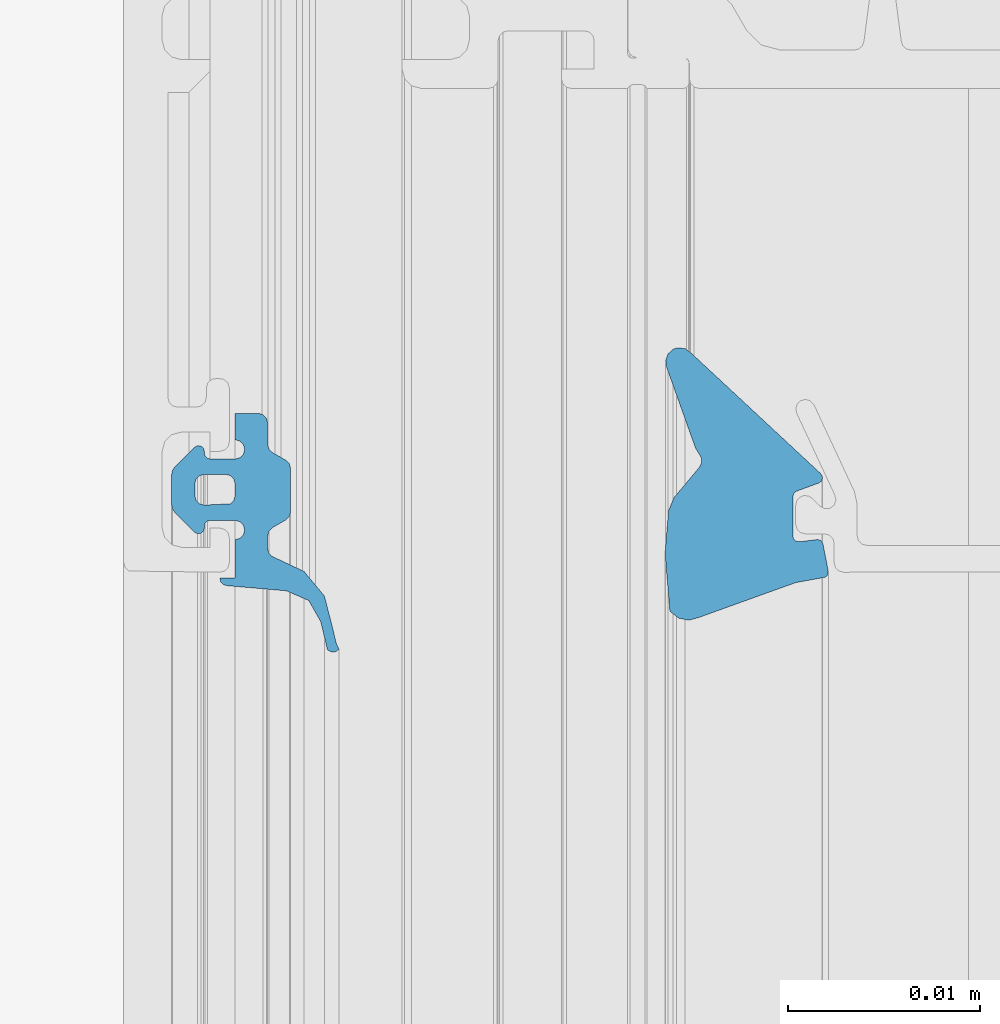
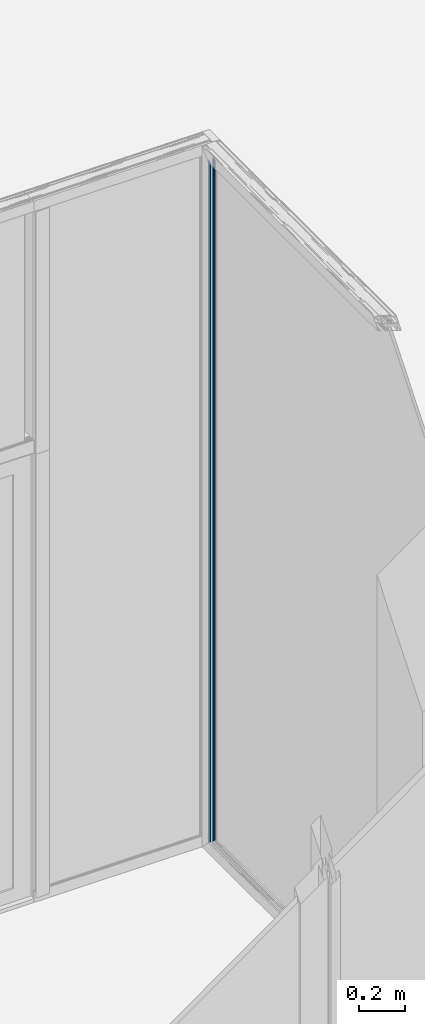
# One storey, part 30 of 69: 1 building element part, 2 elements without a shape of their own.
"""IFC2X3 building model written with IfcOpenShell, lengths in millimetres."""

from ifc_helpers import new_model, entity, si_unit, converted_unit, derived_unit, money_unit, direction, frame, origin_with_axes, place, context, subcontext, project, spatial, faceted_brep, material, type_object, element, aggregate, save


model = new_model("IFC2X3")

# Units and contexts
model_context = context("Model", 3, precision=0.01, world=origin_with_axes(), true_north=direction((0.0, 1.0)))
body_context = subcontext(model_context, "Body", "Model", "MODEL_VIEW")
ifc_project = project(units=[si_unit("LENGTHUNIT", "METRE", prefix="MILLI"), si_unit("AREAUNIT", "SQUARE_METRE"), si_unit("VOLUMEUNIT", "CUBIC_METRE"), converted_unit("PLANEANGLEUNIT", "DEGREE", entity("IfcPlaneAngleMeasure", 0.0174532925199), si_unit("PLANEANGLEUNIT", "RADIAN"), dimensions=[0, 0, 0, 0, 0, 0, 0]), si_unit("SOLIDANGLEUNIT", "STERADIAN"), money_unit("EUR"), converted_unit("TIMEUNIT", "Year", entity("IfcTimeMeasure", 31556926.0), si_unit("TIMEUNIT", "SECOND"), dimensions=[0, 0, 1, 0, 0, 0, 0]), si_unit("MASSUNIT", "GRAM", prefix="KILO"), si_unit("THERMODYNAMICTEMPERATUREUNIT", "DEGREE_CELSIUS"), si_unit("LUMINOUSINTENSITYUNIT", "LUMEN"), si_unit("ENERGYUNIT", "JOULE", prefix="MEGA"), derived_unit("THERMALCONDUCTANCEUNIT", [(si_unit("POWERUNIT", "WATT"), 1), (si_unit("LENGTHUNIT", "METRE"), -1), (si_unit("THERMODYNAMICTEMPERATUREUNIT", "KELVIN"), -1)]), derived_unit("SPECIFICHEATCAPACITYUNIT", [(si_unit("ENERGYUNIT", "JOULE"), 1), (si_unit("MASSUNIT", "GRAM", prefix="KILO"), -1), (si_unit("THERMODYNAMICTEMPERATUREUNIT", "KELVIN"), -1)]), derived_unit("MASSDENSITYUNIT", [(si_unit("MASSUNIT", "GRAM", prefix="KILO"), 1), (si_unit("VOLUMEUNIT", "CUBIC_METRE"), -1)])], contexts=[model_context])

# Site, building, storey
site_placement = place(None, origin_with_axes())
site = spatial("IfcSite", under=ifc_project, at=site_placement, Name="Puškini 31, Narva", CompositionType="ELEMENT")
building_placement = place(site_placement, origin_with_axes())
building = spatial("IfcBuilding", under=site, at=building_placement, Name="Narva Riigigümnaasium", CompositionType="ELEMENT")
storey_placement = place(building_placement, origin_with_axes())
storey = spatial("IfcBuildingStorey", under=building, at=storey_placement, Name="1.korrus 0.00", CompositionType="ELEMENT", Elevation=0.0)

# Curtain wall, member, building element part
curtain_wall_type = type_object("IfcCurtainWallType", Name="Curtain Wall Type", PredefinedType="NOTDEFINED")
curtain_wall_placement = place(storey_placement, frame((22285.3673645, 151537.502931, -7.26812883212e-05), z_axis=(0.0, 0.0, 1.0), x_axis=(1.0, 0.0, 0.0)))
curtain_wall = element("IfcCurtainWall", 1, at=curtain_wall_placement, inside=storey, type_object=curtain_wall_type, Name="G-KLF-01-2")
member_type = type_object("IfcMemberType", Name="61 x 45", PredefinedType="MULLION")
member_placement = place(curtain_wall_placement, frame((0.0, 1037.50292152, 1.740620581e-05), z_axis=(0.0, 0.0, 1.0), x_axis=(0.0, -1.0, 0.0)))
member = element("IfcMember", 2, at=member_placement, type_object=member_type, Name="G-SKLF-12-raam", ObjectType="MULLION")
aggregate(curtain_wall, [member])
ifc_material = material(Name="Membraan - Veekindel")
building_element_part_placement = place(member_placement, origin_with_axes())
building_element_part = element("IfcBuildingElementPart", 3, at=building_element_part_placement, material=ifc_material, Name="Membraan - Veekindel", context=body_context, shape_type="Brep", body=[
    faceted_brep([(59.5800222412, -34.73794757, 59.5800222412), (61.0413385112, -34.3890442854, 61.0413385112), (61.0413385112, -34.3890442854, 3698.95872602), (59.5800222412, -34.73794757, 3700.42004229), (58.4755028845, -35.3628499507, 58.4755028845), (57.9693613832, -36.5265882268, 57.9693613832), (57.7000324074, -39.5999584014, 57.7000324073), (57.6464370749, -39.7999717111, 57.6464370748), (57.5000161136, -39.9463912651, 57.5000161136), (57.3000022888, -39.9999846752, 57.3000022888), (57.3000022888, -39.1999494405, 57.3000022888), (55.3000210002, -39.1999606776, 55.3000210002), (55.2330337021, -38.9499606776, 55.2330337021), (55.0500210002, -38.7669479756, 55.0500210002), (54.8000210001, -38.6999606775, 54.8000210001), (54.550021, -38.7669479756, 54.5500210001), (54.3670082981, -38.9499606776, 54.3670082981), (54.300021, -39.1999606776, 54.300021), (54.300021, -40.4999366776, 54.300021), (54.3402133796, -40.6499366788, 54.3402133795), (54.4500210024, -40.7597443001, 54.4500210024), (54.6000210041, -40.7999366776, 54.6000210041), (54.7000173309, -40.7999366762, 54.7000173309), (54.866675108, -40.850483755, 54.866675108), (54.9771753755, -40.9850924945, 54.9771753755), (54.9942836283, -41.1584047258, 54.9942836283), (54.9122350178, -41.3120206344, 54.9122350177), (53.8716106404, -42.3533776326, 53.8716106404), (53.7093558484, -42.4618547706, 53.7093558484), (53.517932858, -42.4999486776, 53.517932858), (51.8818844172, -42.4999486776, 51.8818844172), (51.6904310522, -42.4618421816, 51.6904310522), (51.5281601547, -42.3533311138, 51.5281601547), (50.4878083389, -41.3119729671, 50.4878083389), (50.4057850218, -41.1583618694, 50.4057850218), (50.4229059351, -40.9850671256, 50.4229059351), (50.5334025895, -40.8504763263, 50.5334025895), (50.7000457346, -40.7999366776, 50.7000457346), (50.80004, -40.7999366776, 50.80004), (50.95004, -40.7597442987, 50.95004), (51.0598476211, -40.6499366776, 51.0598476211), (51.10004, -40.4999366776, 51.10004), (51.10004, -39.1999550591, 51.10004), (51.0330541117, -38.9499546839, 51.0330541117), (50.8500424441, -38.7669409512, 50.8500424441), (50.6000428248, -38.699952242, 50.6000428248), (50.3500424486, -38.7669381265, 50.3500424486), (50.1670287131, -38.9499497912, 50.1670287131), (50.10004, -39.1999494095, 50.10004), (48.7206527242, -39.1999494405, 48.7206527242), (48.7206527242, -38.0023809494, 48.7206527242), (48.7876400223, -37.7523809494, 48.7876400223), (48.9706527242, -37.5693682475, 48.9706527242), (49.2206527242, -37.5023809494, 49.2206527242), (50.3319753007, -37.5023809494, 50.3319753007), (50.5819753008, -37.4353936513, 50.5819753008), (50.7649880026, -37.2523809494, 50.7649880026), (51.1691331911, -36.5523809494, 51.1691331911), (51.352145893, -36.3693682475, 51.352145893), (51.602145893, -36.3023809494, 51.602145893), (53.8391557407, -36.3023809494, 53.8391557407), (54.0891557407, -36.3693682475, 54.0891557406), (54.2721684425, -36.5523809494, 54.2721684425), (54.676313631, -37.2523809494, 54.676313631), (54.8593263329, -37.4353936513, 54.8593263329), (55.1093263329, -37.5023809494, 55.1093263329), (55.7607444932, -37.5023809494, 55.7607444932), (55.9795989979, -37.4519392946, 55.9795989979), (56.1542959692, -37.3107917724, 56.1542959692), (56.2495873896, -37.1074172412, 56.2495873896), (56.9567944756, -35.6067920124, 56.9567944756), (58.2346494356, -34.5489145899, 58.2346494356), (59.8409257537, -34.1343131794, 59.8409257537), (60.7381535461, -33.9217644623, 60.7381535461), (61.0108941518, -33.784859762, 61.0108941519), (61.1423164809, -33.9681748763, 61.1423164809), (61.1536677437, -34.1934467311, 61.1536677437), (53.5000340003, -40.7999553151, 53.5000340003), (53.433048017, -39.44993177, 53.433048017), (53.2500389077, -39.2669226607, 53.2500389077), (53.0000438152, -39.1999366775, 53.0000438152), (52.4000171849, -39.1999366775, 52.4000171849), (52.1500220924, -39.2669226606, 52.1500220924), (51.9670129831, -39.4499317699, 51.9670129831), (51.9000269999, -39.6999268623, 51.9000269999), (51.9000269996, -40.799955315, 51.9000269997), (51.9670118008, -41.0499459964, 51.9670118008), (52.150017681, -41.2329518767, 52.150017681), (52.4000083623, -41.299936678, 52.4000083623), (53.0000526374, -41.299936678, 53.0000526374), (53.2500433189, -41.2329518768, 53.2500433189), (53.4330491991, -41.0499459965, 53.4330491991), (61.1536677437, -34.1934467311, 3698.84639679), (61.1423164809, -33.9681748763, 3698.85774805), (61.0108941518, -33.784859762, 3698.98917038), (60.7381535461, -33.9217644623, 3699.26191099), (59.8409257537, -34.1343131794, 3700.15913878), (58.2346494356, -34.5489145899, 3701.7654151), (56.9567944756, -35.6067920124, 3703.04327006), (56.2495873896, -37.1074172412, 3703.75047715), (56.1542959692, -37.3107917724, 3703.84576857), (55.9795989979, -37.4519392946, 3704.02046554), (55.7607444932, -37.5023809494, 3704.23932004), (55.1093263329, -37.5023809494, 3704.8907382), (54.8593263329, -37.4353936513, 3705.1407382), (54.676313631, -37.2523809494, 3705.3237509), (54.2721684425, -36.5523809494, 3705.72789609), (54.0891557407, -36.3693682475, 3705.91090879), (53.8391557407, -36.3023809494, 3706.16090879), (51.602145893, -36.3023809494, 3708.39791864), (51.352145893, -36.3693682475, 3708.64791864), (51.1691331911, -36.5523809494, 3708.83093134), (50.7649880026, -37.2523809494, 3709.23507653), (50.5819753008, -37.4353936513, 3709.41808923), (50.3319753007, -37.5023809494, 3709.66808923), (49.2206527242, -37.5023809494, 3710.77941181), (48.9706527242, -37.5693682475, 3711.02941181), (48.7876400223, -37.7523809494, 3711.21242451), (48.7206527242, -38.0023809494, 3711.27941181), (48.7206527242, -39.1999494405, 3711.27941181), (50.10004, -39.1999494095, 3709.90002454), (50.1670287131, -38.9499497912, 3709.83303582), (50.3500424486, -38.7669381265, 3709.65002209), (50.6000428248, -38.699952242, 3709.40002171), (50.8500424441, -38.7669409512, 3709.15002209), (51.0330541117, -38.9499546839, 3708.96701042), (51.10004, -39.1999550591, 3708.90002454), (51.10004, -40.4999366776, 3708.90002454), (51.0598476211, -40.6499366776, 3708.94021691), (50.95004, -40.7597442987, 3709.05002454), (50.80004, -40.7999366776, 3709.20002454), (50.7000457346, -40.7999366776, 3709.3000188), (50.5334025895, -40.8504763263, 3709.46666195), (50.4229059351, -40.9850671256, 3709.5771586), (50.4057850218, -41.1583618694, 3709.59427951), (50.4878083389, -41.3119729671, 3709.5122562), (51.5281601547, -42.3533311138, 3708.47190438), (51.6904310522, -42.4618421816, 3708.30963348), (51.8818844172, -42.4999486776, 3708.11818012), (53.517932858, -42.4999486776, 3706.48213168), (53.7093558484, -42.4618547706, 3706.29070869), (53.8716106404, -42.3533776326, 3706.12845389), (54.9122350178, -41.3120206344, 3705.08782952), (54.9942836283, -41.1584047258, 3705.00578091), (54.9771753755, -40.9850924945, 3705.02288916), (54.866675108, -40.850483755, 3705.13338943), (54.7000173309, -40.7999366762, 3705.3000472), (54.6000210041, -40.7999366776, 3705.40004353), (54.4500210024, -40.7597443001, 3705.55004353), (54.3402133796, -40.6499366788, 3705.65985116), (54.300021, -40.4999366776, 3705.70004354), (54.300021, -39.1999606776, 3705.70004354), (54.3670082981, -38.9499606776, 3705.63305624), (54.550021, -38.7669479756, 3705.45004354), (54.8000210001, -38.6999606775, 3705.20004354), (55.0500210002, -38.7669479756, 3704.95004354), (55.2330337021, -38.9499606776, 3704.76703083), (55.3000210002, -39.1999606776, 3704.70004354), (57.3000022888, -39.1999494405, 3702.70006225), (57.3000022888, -39.9999846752, 3702.70006225), (57.5000161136, -39.9463912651, 3702.50004842), (57.6464370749, -39.7999717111, 3702.35362746), (57.7000324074, -39.5999584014, 3702.30003213), (57.9693613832, -36.5265882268, 3702.03070315), (58.4755028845, -35.3628499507, 3701.52456165), (53.5000340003, -40.7999553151, 3706.50003053), (53.4330491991, -41.0499459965, 3706.56701534), (53.2500433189, -41.2329518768, 3706.75002122), (53.0000526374, -41.299936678, 3707.0000119), (52.4000083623, -41.299936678, 3707.60005617), (52.150017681, -41.2329518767, 3707.85004685), (51.9670118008, -41.0499459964, 3708.03305273), (51.9000269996, -40.799955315, 3708.10003754), (51.9000269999, -39.6999268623, 3708.10003754), (51.9670129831, -39.4499317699, 3708.03305155), (52.1500220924, -39.2669226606, 3707.85004244), (52.4000171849, -39.1999366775, 3707.60004735), (53.0000438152, -39.1999366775, 3707.00002072), (53.2500389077, -39.2669226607, 3706.75002563), (53.433048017, -39.44993177, 3706.56701652)], [[[0, 1, 2, 3]], [[1, 0, 4, 5, 6, 7, 8, 9, 10, 11, 12, 13, 14, 15, 16, 17, 18, 19, 20, 21, 22, 23, 24, 25, 26, 27, 28, 29, 30, 31, 32, 33, 34, 35, 36, 37, 38, 39, 40, 41, 42, 43, 44, 45, 46, 47, 48, 49, 50, 51, 52, 53, 54, 55, 56, 57, 58, 59, 60, 61, 62, 63, 64, 65, 66, 67, 68, 69, 70, 71, 72, 73, 74, 75, 76], [77, 78, 79, 80, 81, 82, 83, 84, 85, 86, 87, 88, 89, 90, 91]], [[1, 76, 92, 2]], [[2, 92, 93, 94, 95, 96, 97, 98, 99, 100, 101, 102, 103, 104, 105, 106, 107, 108, 109, 110, 111, 112, 113, 114, 115, 116, 117, 118, 119, 120, 121, 122, 123, 124, 125, 126, 127, 128, 129, 130, 131, 132, 133, 134, 135, 136, 137, 138, 139, 140, 141, 142, 143, 144, 145, 146, 147, 148, 149, 150, 151, 152, 153, 154, 155, 156, 157, 158, 159, 160, 161, 162, 163, 164, 3], [165, 166, 167, 168, 169, 170, 171, 172, 173, 174, 175, 176, 177, 178, 179]], [[4, 0, 3, 164]], [[5, 4, 164, 163]], [[6, 5, 163, 162]], [[7, 6, 162, 161]], [[8, 7, 161, 160]], [[9, 8, 160, 159]], [[10, 9, 159, 158]], [[11, 10, 158, 157]], [[12, 11, 157, 156]], [[13, 12, 156, 155]], [[14, 13, 155, 154]], [[15, 14, 154, 153]], [[16, 15, 153, 152]], [[17, 16, 152, 151]], [[18, 17, 151, 150]], [[19, 18, 150, 149]], [[20, 19, 149, 148]], [[21, 20, 148, 147]], [[22, 21, 147, 146]], [[23, 22, 146, 145]], [[24, 23, 145, 144]], [[25, 24, 144, 143]], [[26, 25, 143, 142]], [[27, 26, 142, 141]], [[28, 27, 141, 140]], [[29, 28, 140, 139]], [[30, 29, 139, 138]], [[31, 30, 138, 137]], [[32, 31, 137, 136]], [[33, 32, 136, 135]], [[34, 33, 135, 134]], [[35, 34, 134, 133]], [[36, 35, 133, 132]], [[37, 36, 132, 131]], [[38, 37, 131, 130]], [[39, 38, 130, 129]], [[40, 39, 129, 128]], [[41, 40, 128, 127]], [[42, 41, 127, 126]], [[43, 42, 126, 125]], [[44, 43, 125, 124]], [[45, 44, 124, 123]], [[46, 45, 123, 122]], [[47, 46, 122, 121]], [[48, 47, 121, 120]], [[49, 48, 120, 119]], [[50, 49, 119, 118]], [[51, 50, 118, 117]], [[52, 51, 117, 116]], [[53, 52, 116, 115]], [[54, 53, 115, 114]], [[55, 54, 114, 113]], [[56, 55, 113, 112]], [[57, 56, 112, 111]], [[58, 57, 111, 110]], [[59, 58, 110, 109]], [[60, 59, 109, 108]], [[61, 60, 108, 107]], [[62, 61, 107, 106]], [[63, 62, 106, 105]], [[64, 63, 105, 104]], [[65, 64, 104, 103]], [[66, 65, 103, 102]], [[67, 66, 102, 101]], [[68, 67, 101, 100]], [[69, 68, 100, 99]], [[70, 69, 99, 98]], [[71, 70, 98, 97]], [[72, 71, 97, 96]], [[73, 72, 96, 95]], [[74, 73, 95, 94]], [[75, 74, 94, 93]], [[76, 75, 93, 92]], [[78, 77, 165, 179]], [[79, 78, 179, 178]], [[80, 79, 178, 177]], [[81, 80, 177, 176]], [[82, 81, 176, 175]], [[83, 82, 175, 174]], [[84, 83, 174, 173]], [[85, 84, 173, 172]], [[86, 85, 172, 171]], [[87, 86, 171, 170]], [[88, 87, 170, 169]], [[89, 88, 169, 168]], [[90, 89, 168, 167]], [[91, 90, 167, 166]], [[77, 91, 166, 165]]]),
    faceted_brep([(55.9926715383, -16.8063498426, 55.9926715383), (59.0307115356, -16.554149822, 59.0307115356), (59.0307115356, -16.554149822, 3700.969353), (55.9926715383, -16.8063498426, 3704.007393), (53.7899070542, -16.6230039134, 53.7899070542), (53.1225200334, -16.3483062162, 53.1225200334), (51.5205025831, -15.0099586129, 51.5205025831), (51.3011765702, -14.8998814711, 51.3011765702), (51.0558924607, -14.9074036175, 51.0558924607), (50.8437237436, -15.0307134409, 50.8437237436), (50.5536994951, -15.2121179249, 50.5536994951), (46.298307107, -16.7340705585, 46.298307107), (45.950966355, -16.7718696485, 45.950966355), (45.6241929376, -16.6482027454, 45.6241929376), (45.3889077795, -16.3899097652, 45.3889077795), (45.3195226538, -16.2152275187, 45.3195226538), (45.3418968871, -15.7688623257, 45.3418968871), (45.6142070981, -15.4144760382, 45.6142070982), (51.8169217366, -8.74599822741, 51.8169217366), (51.938943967, -8.6326446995, 51.938943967), (52.1026310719, -8.60190419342, 52.1026310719), (52.2574645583, -8.66326410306, 52.2574645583), (52.3556584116, -8.79778701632, 52.3556584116), (52.7761212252, -9.95299910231, 52.7761212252), (52.8859560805, -10.0961386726, 52.8859560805), (53.0580290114, -10.1503930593, 53.0580290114), (55.1123574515, -10.1503930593, 55.1123574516), (55.2731258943, -10.1036784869, 55.2731258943), (55.3838261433, -9.9780831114, 55.3838261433), (55.4099827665, -9.81272116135, 55.4099827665), (55.2940485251, -8.85237785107, 55.2940485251), (55.3307332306, -8.72753828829, 55.3307332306), (55.4168250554, -8.62997353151, 55.4168250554), (55.5361285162, -8.57803733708, 55.5361285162), (56.9361285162, -8.30590490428, 56.9361285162), (57.0661058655, -8.3093438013, 57.0661058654), (57.1824204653, -8.36745448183, 57.1824204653), (57.2632233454, -8.46932121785, 57.2632233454), (57.5418652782, -10.0035930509, 57.5418652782), (59.3405112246, -15.0012955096, 59.3405112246), (59.5001582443, -15.5494067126, 59.5001582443), (59.3884652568, -16.1092618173, 59.3884652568), (59.3884652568, -16.1092618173, 3700.61159928), (59.5001582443, -15.5494067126, 3700.49990629), (59.3405112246, -15.0012955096, 3700.65955331), (57.5418652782, -10.0035930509, 3702.45819926), (57.2632233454, -8.46932121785, 3702.73684119), (57.1824204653, -8.36745448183, 3702.81764407), (57.0661058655, -8.3093438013, 3702.93395867), (56.9361285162, -8.30590490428, 3703.06393602), (55.5361285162, -8.57803733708, 3704.46393602), (55.4168250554, -8.62997353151, 3704.58323948), (55.3307332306, -8.72753828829, 3704.6693313), (55.2940485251, -8.85237785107, 3704.70601601), (55.4099827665, -9.81272116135, 3704.59008177), (55.3838261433, -9.9780831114, 3704.61623839), (55.2731258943, -10.1036784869, 3704.72693864), (55.1123574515, -10.1503930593, 3704.88770708), (53.0580290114, -10.1503930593, 3706.94203552), (52.8859560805, -10.0961386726, 3707.11410845), (52.7761212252, -9.95299910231, 3707.22394331), (52.3556584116, -8.79778701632, 3707.64440612), (52.2574645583, -8.66326410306, 3707.74259998), (52.1026310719, -8.60190419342, 3707.89743346), (51.938943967, -8.6326446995, 3708.06112057), (51.8169217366, -8.74599822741, 3708.1831428), (45.6142070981, -15.4144760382, 3714.38585744), (45.3418968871, -15.7688623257, 3714.65816765), (45.3195226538, -16.2152275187, 3714.68054188), (45.3889077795, -16.3899097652, 3714.61115676), (45.6241929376, -16.6482027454, 3714.3758716), (45.950966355, -16.7718696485, 3714.04909818), (46.298307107, -16.7340705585, 3713.70175743), (50.5536994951, -15.2121179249, 3709.44636504), (50.8437237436, -15.0307134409, 3709.15634079), (51.0558924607, -14.9074036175, 3708.94417207), (51.3011765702, -14.8998814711, 3708.69888797), (51.5205025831, -15.0099586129, 3708.47956195), (53.1225200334, -16.3483062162, 3706.8775445), (53.7899070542, -16.6230039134, 3706.21015748)], [[[0, 1, 2, 3]], [[1, 0, 4, 5, 6, 7, 8, 9, 10, 11, 12, 13, 14, 15, 16, 17, 18, 19, 20, 21, 22, 23, 24, 25, 26, 27, 28, 29, 30, 31, 32, 33, 34, 35, 36, 37, 38, 39, 40, 41]], [[1, 41, 42, 2]], [[2, 42, 43, 44, 45, 46, 47, 48, 49, 50, 51, 52, 53, 54, 55, 56, 57, 58, 59, 60, 61, 62, 63, 64, 65, 66, 67, 68, 69, 70, 71, 72, 73, 74, 75, 76, 77, 78, 79, 3]], [[4, 0, 3, 79]], [[5, 4, 79, 78]], [[6, 5, 78, 77]], [[7, 6, 77, 76]], [[8, 7, 76, 75]], [[9, 8, 75, 74]], [[10, 9, 74, 73]], [[11, 10, 73, 72]], [[12, 11, 72, 71]], [[13, 12, 71, 70]], [[14, 13, 70, 69]], [[15, 14, 69, 68]], [[16, 15, 68, 67]], [[17, 16, 67, 66]], [[18, 17, 66, 65]], [[19, 18, 65, 64]], [[20, 19, 64, 63]], [[21, 20, 63, 62]], [[22, 21, 62, 61]], [[23, 22, 61, 60]], [[24, 23, 60, 59]], [[25, 24, 59, 58]], [[26, 25, 58, 57]], [[27, 26, 57, 56]], [[28, 27, 56, 55]], [[29, 28, 55, 54]], [[30, 29, 54, 53]], [[31, 30, 53, 52]], [[32, 31, 52, 51]], [[33, 32, 51, 50]], [[34, 33, 50, 49]], [[35, 34, 49, 48]], [[36, 35, 48, 47]], [[37, 36, 47, 46]], [[38, 37, 46, 45]], [[39, 38, 45, 44]], [[40, 39, 44, 43]], [[41, 40, 43, 42]]]),
])
aggregate(member, [building_element_part])

save(model, "model.ifc")
